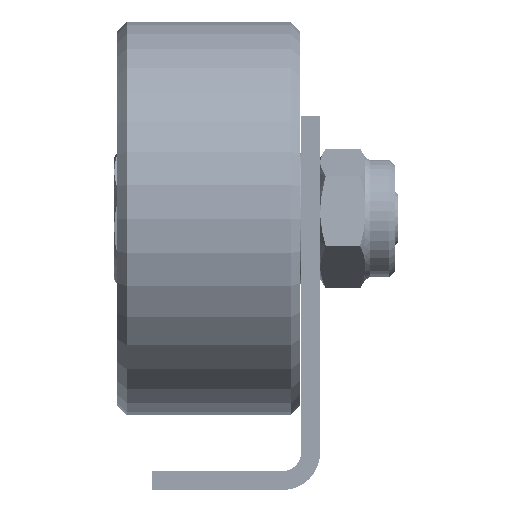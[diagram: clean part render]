
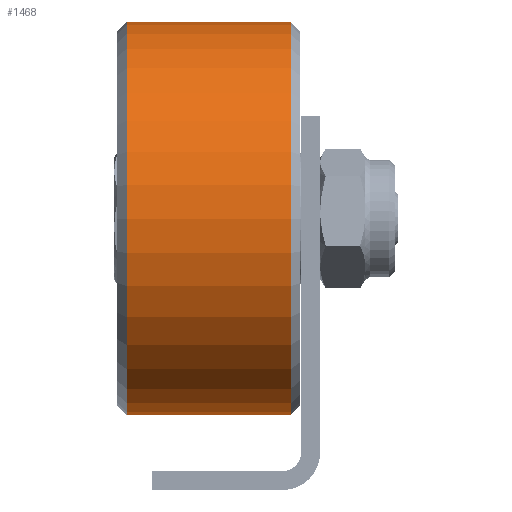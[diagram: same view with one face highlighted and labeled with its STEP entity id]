
A CAD part, front view. The second image highlights one B-rep face of the part: STEP entity #1468.
In plain terms, the highlighted cylindrical face has radius 21 mm (diameter 42 mm), a full revolution.
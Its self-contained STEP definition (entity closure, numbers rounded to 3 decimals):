
#1468 = ADVANCED_FACE( '', ( #2552, #2553 ), #2554, .T. );
#2552 = FACE_OUTER_BOUND( '', #3758, .T. );
#2553 = FACE_OUTER_BOUND( '', #3759, .T. );
#2554 = CYLINDRICAL_SURFACE( '', #3760, 21. );
#3758 = EDGE_LOOP( '', ( #5139 ) );
#3759 = EDGE_LOOP( '', ( #5140 ) );
#3760 = AXIS2_PLACEMENT_3D( '', #5141, #5142, #5143 );
#5139 = ORIENTED_EDGE( '', *, *, #7683, .T. );
#5140 = ORIENTED_EDGE( '', *, *, #7684, .T. );
#5141 = CARTESIAN_POINT( '', ( 0., -9.75, 0. ) );
#5142 = DIRECTION( '', ( 0., -1., 0. ) );
#5143 = DIRECTION( '', ( 0., 0., 1. ) );
#7683 = EDGE_CURVE( '', #8878, #8878, #8879, .F. );
#7684 = EDGE_CURVE( '', #8880, #8880, #8881, .T. );
#8878 = VERTEX_POINT( '', #10543 );
#8879 = CIRCLE( '', #10544, 21. );
#8880 = VERTEX_POINT( '', #10545 );
#8881 = CIRCLE( '', #10546, 21. );
#10543 = CARTESIAN_POINT( '', ( 0., 8.75, 21. ) );
#10544 = AXIS2_PLACEMENT_3D( '', #12570, #12571, #12572 );
#10545 = CARTESIAN_POINT( '', ( 0., -8.75, 21. ) );
#10546 = AXIS2_PLACEMENT_3D( '', #12573, #12574, #12575 );
#12570 = CARTESIAN_POINT( '', ( 0., 8.75, 0. ) );
#12571 = DIRECTION( '', ( 0., 1., 0. ) );
#12572 = DIRECTION( '', ( 0., 0., 1. ) );
#12573 = CARTESIAN_POINT( '', ( 0., -8.75, 0. ) );
#12574 = DIRECTION( '', ( 0., 1., 0. ) );
#12575 = DIRECTION( '', ( 0., 0., 1. ) );
